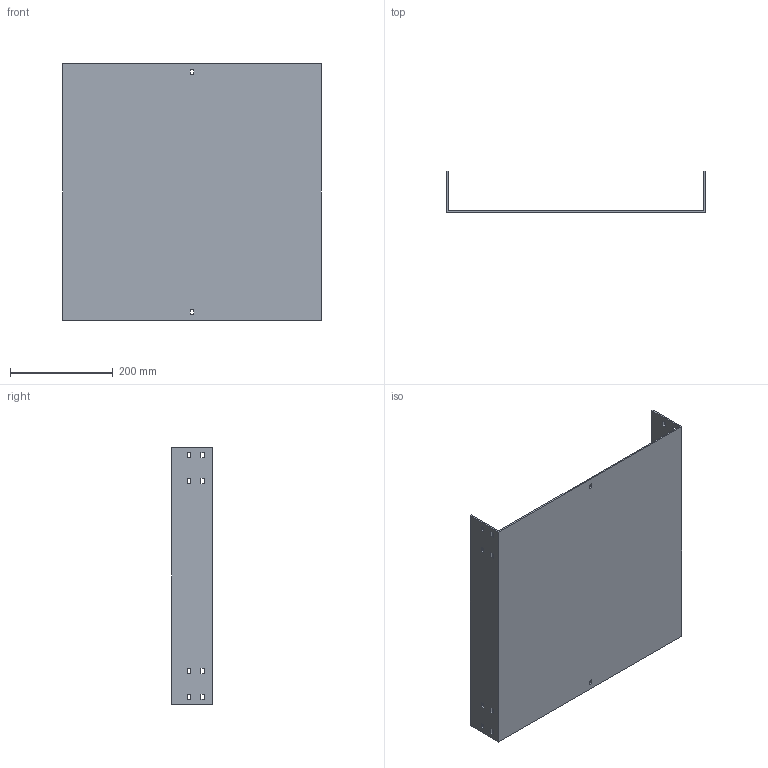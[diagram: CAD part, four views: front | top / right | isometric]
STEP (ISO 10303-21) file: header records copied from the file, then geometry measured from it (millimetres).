
FILE_DESCRIPTION (( 'STEP AP214' ), '1' );
FILE_NAME ('03F7C500.step', '2025-02-21T13:33:12', ( '' ), ( '' ), 'SwSTEP 2.0', 'SolidWorks 2023', '' );
FILE_SCHEMA (( 'AUTOMOTIVE_DESIGN' ));
Length unit declared in the file: millimetre
Products named in the file (1): 03F7C500
Bounding box: 504 x 79 x 500 mm (x, y, z)
Volume: 1141920.5 mm3; surface area: 662732 mm2
Topology: 1 solids, 1 shells, 82 faces, 240 edges, 160 vertices
Faces by surface type: plane 82
Entity records: 2759 total; most frequent: CARTESIAN_POINT 483, ORIENTED_EDGE 480, DIRECTION 406, LINE 240, VECTOR 240, EDGE_CURVE 240, VERTEX_POINT 160, EDGE_LOOP 118
